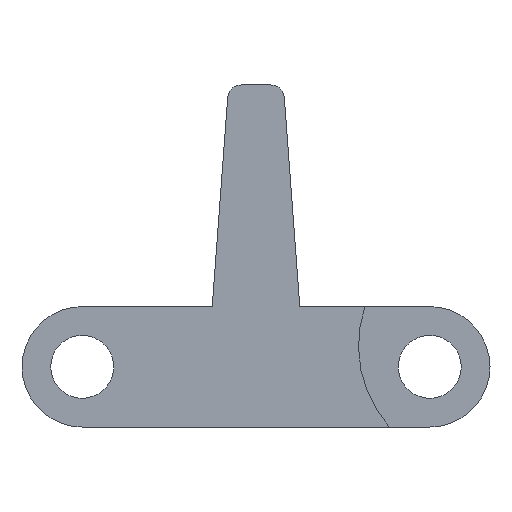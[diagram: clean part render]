
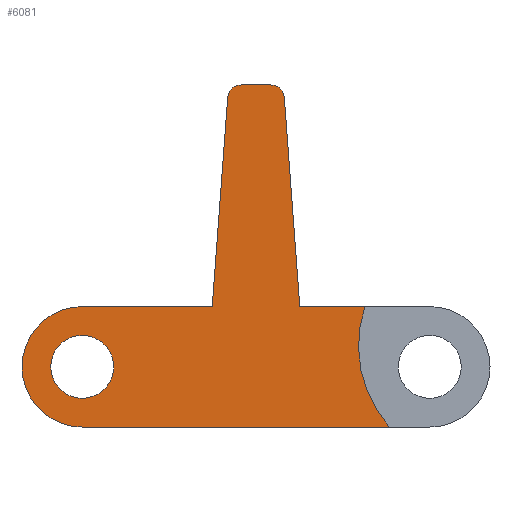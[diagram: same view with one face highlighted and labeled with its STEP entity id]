
A CAD part, front view. The second image highlights one B-rep face of the part: STEP entity #6081.
In plain terms, the highlighted planar face has unit normal (0, -1, 0).
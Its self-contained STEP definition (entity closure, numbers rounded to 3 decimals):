
#61=CARTESIAN_POINT('Vertex',(-12.7,-76.2,-4.4)) ;
#66=CARTESIAN_POINT('Axis2P3D Location',(-12.7,-76.2,0.)) ;
#70=CARTESIAN_POINT('Vertex',(-12.7,-76.2,4.4)) ;
#138=CARTESIAN_POINT('Vertex',(9.75,-76.2,-4.4)) ;
#141=CARTESIAN_POINT('Line Origine',(-1.475,-76.2,-4.4)) ;
#1242=CARTESIAN_POINT('Vertex',(-3.2,-76.2,4.4)) ;
#1574=CARTESIAN_POINT('Line Origine',(-7.95,-76.2,4.4)) ;
#3974=CARTESIAN_POINT('Axis2P3D Location',(16.49,-76.2,1.565)) ;
#3978=CARTESIAN_POINT('Vertex',(7.948,-76.2,4.4)) ;
#5167=CARTESIAN_POINT('Vertex',(3.2,-76.2,4.4)) ;
#5172=CARTESIAN_POINT('Line Origine',(5.574,-76.2,4.4)) ;
#5244=CARTESIAN_POINT('Vertex',(-10.4,-76.2,0.)) ;
#5247=CARTESIAN_POINT('Axis2P3D Location',(-12.7,-76.2,0.)) ;
#5251=CARTESIAN_POINT('Vertex',(-15.,-76.2,0.)) ;
#5266=CARTESIAN_POINT('Axis2P3D Location',(-12.7,-76.2,0.)) ;
#5940=CARTESIAN_POINT('Vertex',(-2.069,-76.2,19.674)) ;
#5950=CARTESIAN_POINT('Line Origine',(-2.634,-76.2,12.037)) ;
#5974=CARTESIAN_POINT('Axis2P3D Location',(-1.071,-76.2,19.6)) ;
#5978=CARTESIAN_POINT('Vertex',(-1.071,-76.2,20.6)) ;
#6002=CARTESIAN_POINT('Vertex',(2.069,-76.2,19.674)) ;
#6007=CARTESIAN_POINT('Line Origine',(2.634,-76.2,12.037)) ;
#6033=CARTESIAN_POINT('Vertex',(1.071,-76.2,20.6)) ;
#6043=CARTESIAN_POINT('Line Origine',(0.,-76.2,20.6)) ;
#6055=CARTESIAN_POINT('Axis2P3D Location',(0.,-76.2,0.)) ;
#6060=CARTESIAN_POINT('Axis2P3D Location',(1.071,-76.2,19.6)) ;
#67=DIRECTION('Axis2P3D Direction',(0.,1.,0.)) ;
#142=DIRECTION('Vector Direction',(1.,0.,0.)) ;
#1575=DIRECTION('Vector Direction',(-1.,0.,0.)) ;
#3975=DIRECTION('Axis2P3D Direction',(0.,1.,-0.)) ;
#5173=DIRECTION('Vector Direction',(-1.,0.,0.)) ;
#5248=DIRECTION('Axis2P3D Direction',(0.,1.,0.)) ;
#5267=DIRECTION('Axis2P3D Direction',(0.,1.,0.)) ;
#5951=DIRECTION('Vector Direction',(-0.074,0.,-0.997)) ;
#5975=DIRECTION('Axis2P3D Direction',(0.,1.,0.)) ;
#6008=DIRECTION('Vector Direction',(-0.074,0.,0.997)) ;
#6044=DIRECTION('Vector Direction',(-1.,0.,0.)) ;
#6056=DIRECTION('Axis2P3D Direction',(0.,1.,0.)) ;
#6057=DIRECTION('Axis2P3D XDirection',(-1.,0.,0.)) ;
#6061=DIRECTION('Axis2P3D Direction',(0.,1.,0.)) ;
#68=AXIS2_PLACEMENT_3D('Circle Axis2P3D',#66,#67,$) ;
#3976=AXIS2_PLACEMENT_3D('Circle Axis2P3D',#3974,#3975,$) ;
#5249=AXIS2_PLACEMENT_3D('Circle Axis2P3D',#5247,#5248,$) ;
#5268=AXIS2_PLACEMENT_3D('Circle Axis2P3D',#5266,#5267,$) ;
#5976=AXIS2_PLACEMENT_3D('Circle Axis2P3D',#5974,#5975,$) ;
#6058=AXIS2_PLACEMENT_3D('Plane Axis2P3D',#6055,#6056,#6057) ;
#6062=AXIS2_PLACEMENT_3D('Circle Axis2P3D',#6060,#6061,$) ;
#6066=ORIENTED_EDGE('',*,*,#6064,.F.) ;
#6067=ORIENTED_EDGE('',*,*,#6047,.F.) ;
#6068=ORIENTED_EDGE('',*,*,#5980,.F.) ;
#6069=ORIENTED_EDGE('',*,*,#5954,.F.) ;
#6070=ORIENTED_EDGE('',*,*,#1578,.F.) ;
#6071=ORIENTED_EDGE('',*,*,#72,.F.) ;
#6072=ORIENTED_EDGE('',*,*,#145,.F.) ;
#6073=ORIENTED_EDGE('',*,*,#3980,.T.) ;
#6074=ORIENTED_EDGE('',*,*,#5176,.F.) ;
#6075=ORIENTED_EDGE('',*,*,#6011,.F.) ;
#6078=ORIENTED_EDGE('',*,*,#5253,.T.) ;
#6079=ORIENTED_EDGE('',*,*,#5270,.T.) ;
#6080=FACE_BOUND('',#6077,.T.) ;
#143=VECTOR('Line Direction',#142,1.) ;
#1576=VECTOR('Line Direction',#1575,1.) ;
#5174=VECTOR('Line Direction',#5173,1.) ;
#5952=VECTOR('Line Direction',#5951,1.) ;
#6009=VECTOR('Line Direction',#6008,1.) ;
#6045=VECTOR('Line Direction',#6044,1.) ;
#6081=ADVANCED_FACE('PartBody',(#6076,#6080),#6059,.F.) ;
#69=CIRCLE('generated circle',#68,4.4) ;
#3977=CIRCLE('generated circle',#3976,9.) ;
#5250=CIRCLE('generated circle',#5249,2.3) ;
#5269=CIRCLE('generated circle',#5268,2.3) ;
#5977=CIRCLE('generated circle',#5976,1.) ;
#6063=CIRCLE('generated circle',#6062,1.) ;
#72=EDGE_CURVE('',#62,#71,#69,.T.) ;
#145=EDGE_CURVE('',#139,#62,#144,.F.) ;
#1578=EDGE_CURVE('',#71,#1243,#1577,.F.) ;
#3980=EDGE_CURVE('',#139,#3979,#3977,.T.) ;
#5176=EDGE_CURVE('',#5168,#3979,#5175,.F.) ;
#5253=EDGE_CURVE('',#5252,#5245,#5250,.T.) ;
#5270=EDGE_CURVE('',#5245,#5252,#5269,.T.) ;
#5954=EDGE_CURVE('',#1243,#5941,#5953,.F.) ;
#5980=EDGE_CURVE('',#5941,#5979,#5977,.T.) ;
#6011=EDGE_CURVE('',#6003,#5168,#6010,.F.) ;
#6047=EDGE_CURVE('',#5979,#6034,#6046,.F.) ;
#6064=EDGE_CURVE('',#6034,#6003,#6063,.T.) ;
#6065=EDGE_LOOP('',(#6066,#6067,#6068,#6069,#6070,#6071,#6072,#6073,#6074,#6075)) ;
#6077=EDGE_LOOP('',(#6078,#6079)) ;
#6076=FACE_OUTER_BOUND('',#6065,.T.) ;
#144=LINE('Line',#141,#143) ;
#1577=LINE('Line',#1574,#1576) ;
#5175=LINE('Line',#5172,#5174) ;
#5953=LINE('Line',#5950,#5952) ;
#6010=LINE('Line',#6007,#6009) ;
#6046=LINE('Line',#6043,#6045) ;
#6059=PLANE('',#6058) ;
#62=VERTEX_POINT('',#61) ;
#71=VERTEX_POINT('',#70) ;
#139=VERTEX_POINT('',#138) ;
#1243=VERTEX_POINT('',#1242) ;
#3979=VERTEX_POINT('',#3978) ;
#5168=VERTEX_POINT('',#5167) ;
#5245=VERTEX_POINT('',#5244) ;
#5252=VERTEX_POINT('',#5251) ;
#5941=VERTEX_POINT('',#5940) ;
#5979=VERTEX_POINT('',#5978) ;
#6003=VERTEX_POINT('',#6002) ;
#6034=VERTEX_POINT('',#6033) ;
